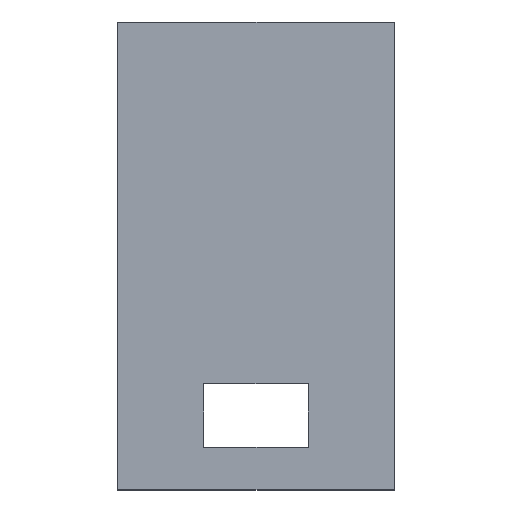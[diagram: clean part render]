
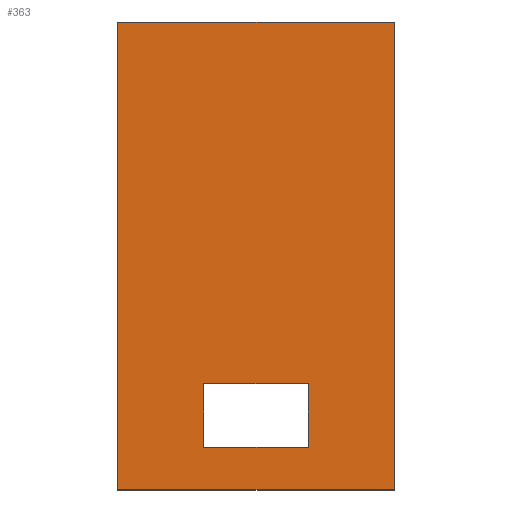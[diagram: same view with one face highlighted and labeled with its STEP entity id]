
A CAD part, front view. The second image highlights one B-rep face of the part: STEP entity #363.
In plain terms, the highlighted planar face has unit normal (0, -1, 0).
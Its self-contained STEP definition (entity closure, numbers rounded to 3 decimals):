
#311=AXIS2_PLACEMENT_3D('Plane Axis2P3D',#308,#309,#310) ;
#57=CARTESIAN_POINT('Vertex',(13.,-16.5,45.)) ;
#60=CARTESIAN_POINT('Line Origine',(13.,-16.5,23.)) ;
#64=CARTESIAN_POINT('Vertex',(13.,-16.5,1.)) ;
#267=CARTESIAN_POINT('Vertex',(-13.,-16.5,1.)) ;
#270=CARTESIAN_POINT('Line Origine',(-13.,-16.5,23.)) ;
#274=CARTESIAN_POINT('Vertex',(-13.,-16.5,45.)) ;
#308=CARTESIAN_POINT('Axis2P3D Location',(18.,-16.5,0.)) ;
#313=CARTESIAN_POINT('Line Origine',(0.,-16.5,45.)) ;
#318=CARTESIAN_POINT('Line Origine',(0.,-16.5,1.)) ;
#329=CARTESIAN_POINT('Line Origine',(0.,-16.5,5.)) ;
#333=CARTESIAN_POINT('Vertex',(4.9,-16.5,5.)) ;
#335=CARTESIAN_POINT('Vertex',(-4.9,-16.5,5.)) ;
#338=CARTESIAN_POINT('Line Origine',(-4.9,-16.5,23.35)) ;
#342=CARTESIAN_POINT('Vertex',(-4.9,-16.5,11.)) ;
#345=CARTESIAN_POINT('Line Origine',(0.,-16.5,11.)) ;
#349=CARTESIAN_POINT('Vertex',(4.9,-16.5,11.)) ;
#352=CARTESIAN_POINT('Line Origine',(4.9,-16.5,23.35)) ;
#61=DIRECTION('Vector Direction',(0.,0.,-1.)) ;
#271=DIRECTION('Vector Direction',(0.,0.,-1.)) ;
#309=DIRECTION('Axis2P3D Direction',(0.,1.,-0.)) ;
#310=DIRECTION('Axis2P3D XDirection',(-1.,0.,0.)) ;
#314=DIRECTION('Vector Direction',(-1.,0.,0.)) ;
#319=DIRECTION('Vector Direction',(-1.,0.,0.)) ;
#330=DIRECTION('Vector Direction',(-1.,0.,0.)) ;
#339=DIRECTION('Vector Direction',(0.,0.,1.)) ;
#346=DIRECTION('Vector Direction',(-1.,0.,0.)) ;
#353=DIRECTION('Vector Direction',(0.,0.,1.)) ;
#62=VECTOR('Line Direction',#61,1.) ;
#272=VECTOR('Line Direction',#271,1.) ;
#315=VECTOR('Line Direction',#314,1.) ;
#320=VECTOR('Line Direction',#319,1.) ;
#331=VECTOR('Line Direction',#330,1.) ;
#340=VECTOR('Line Direction',#339,1.) ;
#347=VECTOR('Line Direction',#346,1.) ;
#354=VECTOR('Line Direction',#353,1.) ;
#324=ORIENTED_EDGE('',*,*,#317,.F.) ;
#325=ORIENTED_EDGE('',*,*,#276,.T.) ;
#326=ORIENTED_EDGE('',*,*,#322,.T.) ;
#327=ORIENTED_EDGE('',*,*,#66,.F.) ;
#358=ORIENTED_EDGE('',*,*,#337,.T.) ;
#359=ORIENTED_EDGE('',*,*,#344,.T.) ;
#360=ORIENTED_EDGE('',*,*,#351,.F.) ;
#361=ORIENTED_EDGE('',*,*,#356,.T.) ;
#362=FACE_BOUND('',#357,.T.) ;
#363=ADVANCED_FACE('\X2\96F64EF651E04F554F53\X0\',(#328,#362),#312,.F.) ;
#66=EDGE_CURVE('',#58,#65,#63,.T.) ;
#276=EDGE_CURVE('',#275,#268,#273,.T.) ;
#317=EDGE_CURVE('',#275,#58,#316,.F.) ;
#322=EDGE_CURVE('',#268,#65,#321,.F.) ;
#337=EDGE_CURVE('',#334,#336,#332,.T.) ;
#344=EDGE_CURVE('',#336,#343,#341,.T.) ;
#351=EDGE_CURVE('',#350,#343,#348,.T.) ;
#356=EDGE_CURVE('',#350,#334,#355,.F.) ;
#323=EDGE_LOOP('',(#324,#325,#326,#327)) ;
#357=EDGE_LOOP('',(#358,#359,#360,#361)) ;
#328=FACE_OUTER_BOUND('',#323,.T.) ;
#63=LINE('Line',#60,#62) ;
#273=LINE('Line',#270,#272) ;
#316=LINE('Line',#313,#315) ;
#321=LINE('Line',#318,#320) ;
#332=LINE('Line',#329,#331) ;
#341=LINE('Line',#338,#340) ;
#348=LINE('Line',#345,#347) ;
#355=LINE('Line',#352,#354) ;
#312=PLANE('Plane',#311) ;
#58=VERTEX_POINT('',#57) ;
#65=VERTEX_POINT('',#64) ;
#268=VERTEX_POINT('',#267) ;
#275=VERTEX_POINT('',#274) ;
#334=VERTEX_POINT('',#333) ;
#336=VERTEX_POINT('',#335) ;
#343=VERTEX_POINT('',#342) ;
#350=VERTEX_POINT('',#349) ;
